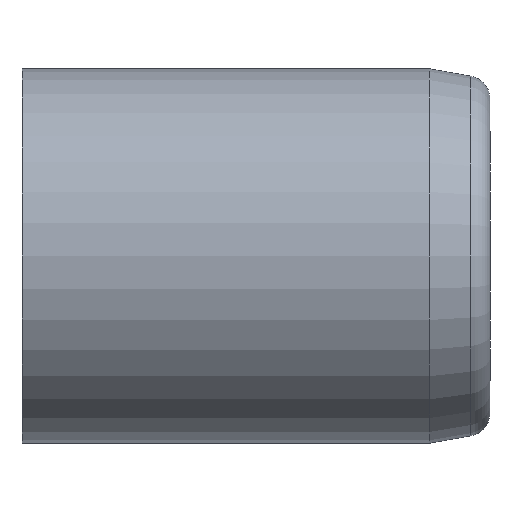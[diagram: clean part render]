
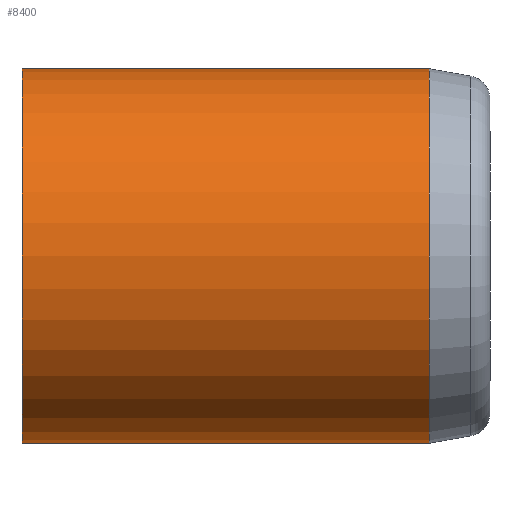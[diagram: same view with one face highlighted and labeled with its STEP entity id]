
A CAD part, left-side view. The second image highlights one B-rep face of the part: STEP entity #8400.
In plain terms, the highlighted cylindrical face has radius 8 mm (diameter 16 mm), a partial arc.
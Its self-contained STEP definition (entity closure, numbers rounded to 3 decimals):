
#1061 = DIRECTION ( 'NONE',  ( 0., 1., 0. ) ) ;
#2009 = DIRECTION ( 'NONE',  ( 0., 0., -1. ) ) ;
#2191 = VERTEX_POINT ( 'NONE', #8019 ) ;
#2370 = VERTEX_POINT ( 'NONE', #6581 ) ;
#2537 = CIRCLE ( 'NONE', #11024, 8. ) ;
#3052 = LINE ( 'NONE', #9505, #8298 ) ;
#3076 = VERTEX_POINT ( 'NONE', #9096 ) ;
#3077 = DIRECTION ( 'NONE',  ( 0., 0., 1. ) ) ;
#3553 = AXIS2_PLACEMENT_3D ( 'NONE', #7643, #4858, #2009 ) ;
#3939 = CARTESIAN_POINT ( 'NONE',  ( 0., -9.87, -8. ) ) ;
#4024 = EDGE_CURVE ( 'NONE', #2370, #2191, #3052, .T. ) ;
#4043 = ORIENTED_EDGE ( 'NONE', *, *, #10222, .F. ) ;
#4477 = ORIENTED_EDGE ( 'NONE', *, *, #11951, .F. ) ;
#4858 = DIRECTION ( 'NONE',  ( 0., -1., 0. ) ) ;
#5070 = EDGE_LOOP ( 'NONE', ( #4477, #6608, #9773, #4043 ) ) ;
#5269 = EDGE_CURVE ( 'NONE', #2370, #3076, #8090, .T. ) ;
#6240 = CARTESIAN_POINT ( 'NONE',  ( 0., 20.13, -8. ) ) ;
#6478 = VERTEX_POINT ( 'NONE', #6240 ) ;
#6548 = DIRECTION ( 'NONE',  ( 0., 0., 1. ) ) ;
#6581 = CARTESIAN_POINT ( 'NONE',  ( 0., 2.73, 8. ) ) ;
#6608 = ORIENTED_EDGE ( 'NONE', *, *, #5269, .F. ) ;
#7643 = CARTESIAN_POINT ( 'NONE',  ( 0., 2.73, 0. ) ) ;
#7719 = DIRECTION ( 'NONE',  ( 0., 1., 0. ) ) ;
#7879 = AXIS2_PLACEMENT_3D ( 'NONE', #11129, #10392, #6548 ) ;
#8019 = CARTESIAN_POINT ( 'NONE',  ( 0., 20.13, 8. ) ) ;
#8090 = CIRCLE ( 'NONE', #3553, 8. ) ;
#8231 = FACE_OUTER_BOUND ( 'NONE', #5070, .T. ) ;
#8298 = VECTOR ( 'NONE', #1061, 1000. ) ;
#8400 = ADVANCED_FACE ( 'NONE', ( #8231 ), #11259, .T. ) ;
#9096 = CARTESIAN_POINT ( 'NONE',  ( 0., 2.73, -8. ) ) ;
#9235 = VECTOR ( 'NONE', #7719, 1000. ) ;
#9505 = CARTESIAN_POINT ( 'NONE',  ( 0., -9.87, 8. ) ) ;
#9773 = ORIENTED_EDGE ( 'NONE', *, *, #4024, .T. ) ;
#10222 = EDGE_CURVE ( 'NONE', #6478, #2191, #2537, .T. ) ;
#10392 = DIRECTION ( 'NONE',  ( 0., 1., 0. ) ) ;
#10550 = LINE ( 'NONE', #3939, #9235 ) ;
#10563 = CARTESIAN_POINT ( 'NONE',  ( 0., 20.13, 0. ) ) ;
#11024 = AXIS2_PLACEMENT_3D ( 'NONE', #10563, #11556, #3077 ) ;
#11129 = CARTESIAN_POINT ( 'NONE',  ( 0., -9.87, 0. ) ) ;
#11259 = CYLINDRICAL_SURFACE ( 'NONE', #7879, 8. ) ;
#11556 = DIRECTION ( 'NONE',  ( 0., 1., 0. ) ) ;
#11951 = EDGE_CURVE ( 'NONE', #3076, #6478, #10550, .T. ) ;
